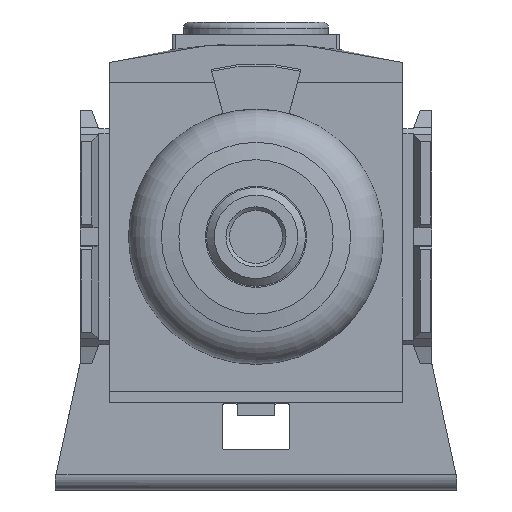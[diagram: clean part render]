
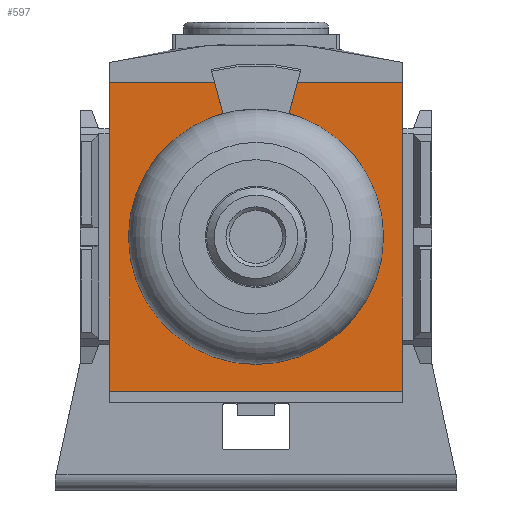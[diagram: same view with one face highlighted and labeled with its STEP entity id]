
A CAD part, front view. The second image highlights one B-rep face of the part: STEP entity #597.
In plain terms, the highlighted planar face has unit normal (0, -1, 0) as drawn and (0, 1, 0) by its records, which use the part's own axes.
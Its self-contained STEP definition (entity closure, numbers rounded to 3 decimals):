
#597 = ADVANCED_FACE( '', ( #1410, #1411 ), #1412, .T. );
#1410 = FACE_BOUND( '', #2442, .T. );
#1411 = FACE_OUTER_BOUND( '', #2443, .T. );
#1412 = PLANE( '', #2444 );
#2442 = EDGE_LOOP( '', ( #4168 ) );
#2443 = EDGE_LOOP( '', ( #4169, #4170, #4171, #4172 ) );
#2444 = AXIS2_PLACEMENT_3D( '', #4173, #4174, #4175 );
#4168 = ORIENTED_EDGE( '', *, *, #6736, .T. );
#4169 = ORIENTED_EDGE( '', *, *, #6737, .T. );
#4170 = ORIENTED_EDGE( '', *, *, #6557, .T. );
#4171 = ORIENTED_EDGE( '', *, *, #6738, .T. );
#4172 = ORIENTED_EDGE( '', *, *, #6138, .T. );
#4173 = CARTESIAN_POINT( '', ( 0., 32., 0. ) );
#4174 = DIRECTION( '', ( 0., 1., 0. ) );
#4175 = DIRECTION( '', ( 0., 0., 1. ) );
#6138 = EDGE_CURVE( '', #7350, #7348, #7351, .T. );
#6557 = EDGE_CURVE( '', #8080, #8078, #8081, .T. );
#6736 = EDGE_CURVE( '', #8359, #8359, #8360, .T. );
#6737 = EDGE_CURVE( '', #7348, #8080, #8361, .T. );
#6738 = EDGE_CURVE( '', #8078, #7350, #8362, .T. );
#7348 = VERTEX_POINT( '', #9133 );
#7350 = VERTEX_POINT( '', #9136 );
#7351 = LINE( '', #9137, #9138 );
#8078 = VERTEX_POINT( '', #10151 );
#8080 = VERTEX_POINT( '', #10154 );
#8081 = LINE( '', #10155, #10156 );
#8359 = VERTEX_POINT( '', #10531 );
#8360 = CIRCLE( '', #10532, 20.661 );
#8361 = LINE( '', #10533, #10534 );
#8362 = LINE( '', #10535, #10536 );
#9133 = CARTESIAN_POINT( '', ( -23.75, 32., -25. ) );
#9136 = CARTESIAN_POINT( '', ( 23.75, 32., -25. ) );
#9137 = CARTESIAN_POINT( '', ( 23.75, 32., -25. ) );
#9138 = VECTOR( '', #11503, 1000. );
#10151 = CARTESIAN_POINT( '', ( 23.75, 32., 25. ) );
#10154 = CARTESIAN_POINT( '', ( -23.75, 32., 25. ) );
#10155 = CARTESIAN_POINT( '', ( -23.75, 32., 25. ) );
#10156 = VECTOR( '', #12004, 1000. );
#10531 = CARTESIAN_POINT( '', ( 0., 32., -20.661 ) );
#10532 = AXIS2_PLACEMENT_3D( '', #12207, #12208, #12209 );
#10533 = CARTESIAN_POINT( '', ( -23.75, 32., -25. ) );
#10534 = VECTOR( '', #12210, 1000. );
#10535 = CARTESIAN_POINT( '', ( 23.75, 32., 25. ) );
#10536 = VECTOR( '', #12211, 1000. );
#11503 = DIRECTION( '', ( -1., 0., 0. ) );
#12004 = DIRECTION( '', ( 1., 0., 0. ) );
#12207 = CARTESIAN_POINT( '', ( 0., 32., 0. ) );
#12208 = DIRECTION( '', ( 0., -1., 0. ) );
#12209 = DIRECTION( '', ( 0., 0., -1. ) );
#12210 = DIRECTION( '', ( 0., 0., 1. ) );
#12211 = DIRECTION( '', ( 0., 0., -1. ) );
